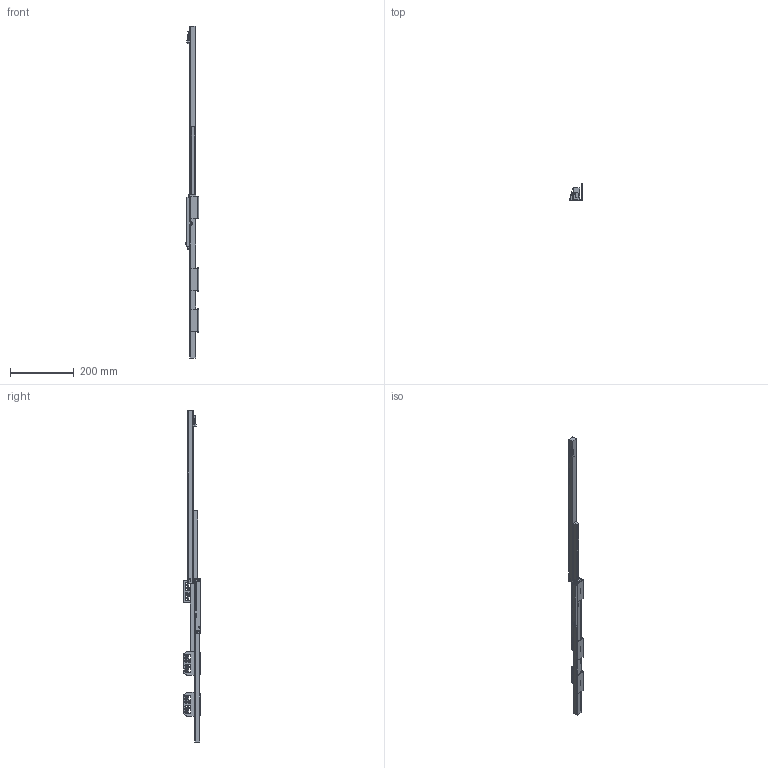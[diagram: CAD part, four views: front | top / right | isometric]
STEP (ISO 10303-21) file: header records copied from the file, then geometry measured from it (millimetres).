
FILE_DESCRIPTION (( 'STEP AP203' ), '1' );
FILE_NAME ('HB016004GX-R(打开).STEP', '2025-05-13T06:39:15', ( '微软用户' ), ( '微软中国' ), 'SwSTEP 2.0', 'SolidWorks 2021', '' );
FILE_SCHEMA (( 'CONFIG_CONTROL_DESIGN' ));
Products named in the file (4): M覃誹儂凳R; HB416004H-1-R(湖羲); HB016004GX-R(湖羲); 瑰貌寢OFH01-GG-GB.STEP
Assembly tree (3 placements, depth 2):
  HB016004GX-R(湖羲)
    HB416004H-1-R(湖羲)
    瑰貌寢OFH01-GG-GB.STEP
    M覃誹儂凳R
Bounding box: 40.83 x 53 x 1038 mm (x, y, z)
Volume: 422557.9 mm3; surface area: 119031 mm2
Topology: 3 solids, 48 shells, 1712 faces, 4466 edges, 2839 vertices
Faces by surface type: plane 601, cylinder 523, bspline 356, torus 158, cone 66, sphere 8
Entity records: 92951 total; most frequent: CARTESIAN_POINT 53136, ORIENTED_EDGE 8876, DIRECTION 7299, EDGE_CURVE 4438, VERTEX_POINT 2837, AXIS2_PLACEMENT_3D 2581, LINE 2137, VECTOR 2137
